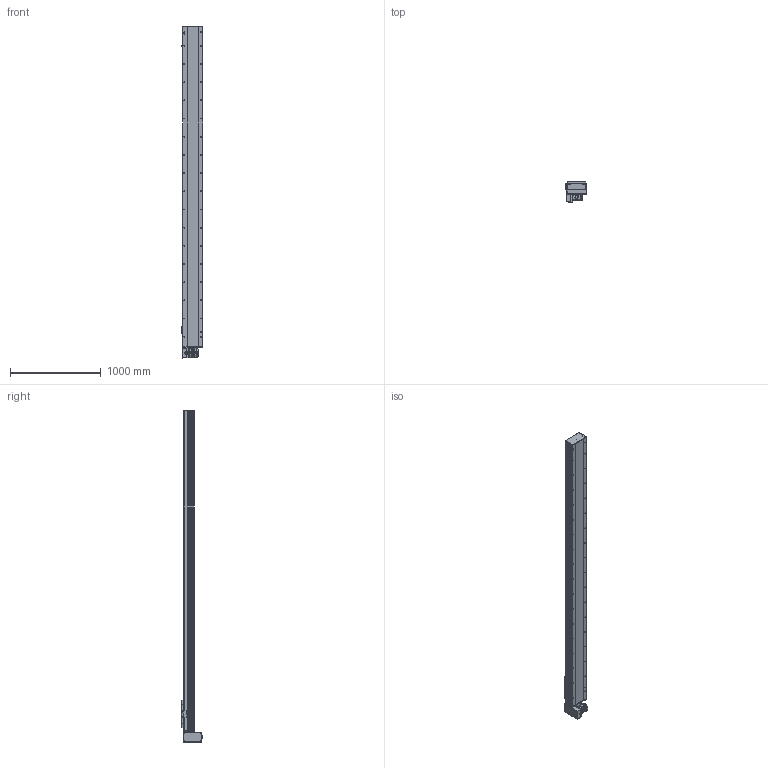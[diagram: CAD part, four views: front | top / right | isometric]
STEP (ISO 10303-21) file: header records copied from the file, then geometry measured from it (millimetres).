
FILE_DESCRIPTION (( 'STEP AP214' ), '1' );
FILE_NAME ('TPE22-L40-3100-RD-T75-C4.STEP', '2023-04-12T11:47:23', ( '' ), ( '' ), 'SwSTEP 2.0', 'SolidWorks 2020', '' );
FILE_SCHEMA (( 'AUTOMOTIVE_DESIGN' ));
Length unit declared in the file: millimetre
Products named in the file (10): hexagon head bolts-full thread gb_GB_FASTENER_BOLT_STBAB A M5X16-N; 葩璃 TPE22-L-001 菁釱MZ-220-01^TPE22-L40-RD-T75-C4; 葩璃 TPE22 賑雄殤^TPE22-L40-RD-T75-C4; 葩璃 MSMD08PC_P75^TPE22-L40-RD-T75-C4; 葩璃 詩湍150^TPE22-L40-RD-T75-C4; 葩璃 TPE22-L-002 耜裔ZTMZ-220-04^TPE22-L40-RD-T75-C4; 葩璃 TPE22-L-007 々湍釱^TPE22-L40-RD-T75-C4; TPE22-L40-3100-RD-T75-C4; 葩璃 TPT22-L-009 萇儂啣^TPE22-L40-RD-T75-C4; 葩璃 pm-t65-672^TPE22-L40-RD-T75-C4
Assembly tree (12 placements, depth 2):
  TPE22-L40-3100-RD-T75-C4
    葩璃 TPE22-L-001 菁釱MZ-220-01^TPE22-L40-RD-T75-C4
    葩璃 TPE22-L-002 耜裔ZTMZ-220-04^TPE22-L40-RD-T75-C4  x2
    葩璃 詩湍150^TPE22-L40-RD-T75-C4
    葩璃 TPE22-L-007 々湍釱^TPE22-L40-RD-T75-C4
    葩璃 TPT22-L-009 萇儂啣^TPE22-L40-RD-T75-C4
    葩璃 TPE22 賑雄殤^TPE22-L40-RD-T75-C4
    葩璃 pm-t65-672^TPE22-L40-RD-T75-C4  x3
    葩璃 MSMD08PC_P75^TPE22-L40-RD-T75-C4
    hexagon head bolts-full thread gb_GB_FASTENER_BOLT_STBAB A M5X16-N
Bounding box: 233.7 x 229.65 x 3652 mm (x, y, z)
Volume: 40029617.1 mm3; surface area: 5558785.5 mm2
Topology: 22 solids, 22 shells, 1829 faces, 4799 edges, 3035 vertices
Faces by surface type: plane 1039, cylinder 612, cone 148, bspline 30
Entity records: 51926 total; most frequent: CARTESIAN_POINT 10577, DIRECTION 8170, ORIENTED_EDGE 8006, EDGE_CURVE 4003, AXIS2_PLACEMENT_3D 2733, LINE 2704, VECTOR 2704, VERTEX_POINT 2579
